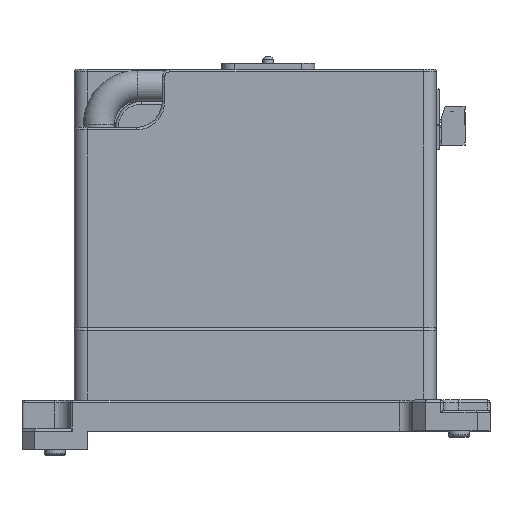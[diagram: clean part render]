
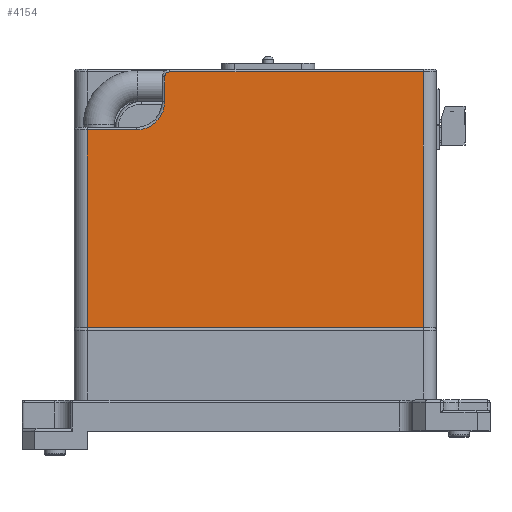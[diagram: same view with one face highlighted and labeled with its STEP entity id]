
A CAD part, top view. The second image highlights one B-rep face of the part: STEP entity #4154.
In plain terms, the highlighted planar face has unit normal (0, 0, 1) as drawn and (-1, 0, 0) by its records, which use the part's own axes.
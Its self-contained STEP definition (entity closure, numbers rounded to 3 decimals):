
#4154=ADVANCED_FACE('',(#7481),#5703,.F.);
#5703=PLANE('',#40918);
#7481=FACE_OUTER_BOUND('',#9670,.T.);
#9670=EDGE_LOOP('',(#19633,#19634,#19635,#19636,#19637,#19638,#19639,#19640));
#10632=CIRCLE('',#40916,11.);
#10633=CIRCLE('',#40917,2.);
#19633=ORIENTED_EDGE('',*,*,#29662,.T.);
#19634=ORIENTED_EDGE('',*,*,#29663,.T.);
#19635=ORIENTED_EDGE('',*,*,#29664,.T.);
#19636=ORIENTED_EDGE('',*,*,#29660,.T.);
#19637=ORIENTED_EDGE('',*,*,#29665,.T.);
#19638=ORIENTED_EDGE('',*,*,#29666,.T.);
#19639=ORIENTED_EDGE('',*,*,#29667,.T.);
#19640=ORIENTED_EDGE('',*,*,#29668,.T.);
#24659=VERTEX_POINT('',#68594);
#24660=VERTEX_POINT('',#68596);
#24661=VERTEX_POINT('',#68600);
#24662=VERTEX_POINT('',#68601);
#24663=VERTEX_POINT('',#68603);
#24664=VERTEX_POINT('',#68606);
#24665=VERTEX_POINT('',#68608);
#24666=VERTEX_POINT('',#68610);
#29660=EDGE_CURVE('',#24660,#24659,#34007,.T.);
#29662=EDGE_CURVE('',#24661,#24662,#10632,.T.);
#29663=EDGE_CURVE('',#24662,#24663,#34008,.T.);
#29664=EDGE_CURVE('',#24663,#24660,#34009,.T.);
#29665=EDGE_CURVE('',#24659,#24664,#34010,.T.);
#29666=EDGE_CURVE('',#24664,#24665,#34011,.T.);
#29667=EDGE_CURVE('',#24665,#24666,#10633,.T.);
#29668=EDGE_CURVE('',#24666,#24661,#34012,.T.);
#34007=LINE('',#68595,#38380);
#34008=LINE('',#68602,#38381);
#34009=LINE('',#68604,#38382);
#34010=LINE('',#68605,#38383);
#34011=LINE('',#68607,#38384);
#34012=LINE('',#68611,#38385);
#38380=VECTOR('',#49520,1.);
#38381=VECTOR('',#49527,1.);
#38382=VECTOR('',#49528,1.);
#38383=VECTOR('',#49529,1.);
#38384=VECTOR('',#49530,1.);
#38385=VECTOR('',#49533,1.);
#40916=AXIS2_PLACEMENT_3D('',#68599,#49525,#49526);
#40917=AXIS2_PLACEMENT_3D('',#68609,#49531,#49532);
#40918=AXIS2_PLACEMENT_3D('',#68612,#49534,#49535);
#49520=DIRECTION('',(0.,-1.,0.));
#49525=DIRECTION('',(1.,0.,0.));
#49526=DIRECTION('',(0.,0.,-1.));
#49527=DIRECTION('',(0.,1.,0.));
#49528=DIRECTION('',(0.,0.,-1.));
#49529=DIRECTION('',(0.,0.,1.));
#49530=DIRECTION('',(0.,1.,0.));
#49531=DIRECTION('',(-1.,0.,0.));
#49532=DIRECTION('',(0.,0.,-1.));
#49533=DIRECTION('',(0.,0.,-1.));
#49534=DIRECTION('',(1.,0.,0.));
#49535=DIRECTION('',(0.,0.,-1.));
#68594=CARTESIAN_POINT('',(-65.,-60.,0.));
#68595=CARTESIAN_POINT('',(-65.,75.,0.));
#68596=CARTESIAN_POINT('',(-65.,70.,0.));
#68599=CARTESIAN_POINT('',(-65.,51.,87.5));
#68600=CARTESIAN_POINT('',(-65.,40.,87.5));
#68601=CARTESIAN_POINT('',(-65.,51.,76.5));
#68602=CARTESIAN_POINT('',(-65.,70.,76.5));
#68603=CARTESIAN_POINT('',(-65.,70.,76.5));
#68604=CARTESIAN_POINT('',(-65.,70.,100.));
#68605=CARTESIAN_POINT('',(-65.,-60.,100.));
#68606=CARTESIAN_POINT('',(-65.,-60.,99.));
#68607=CARTESIAN_POINT('',(-65.,38.,99.));
#68608=CARTESIAN_POINT('',(-65.,38.,99.));
#68609=CARTESIAN_POINT('',(-65.,38.,97.));
#68610=CARTESIAN_POINT('',(-65.,40.,97.));
#68611=CARTESIAN_POINT('',(-65.,40.,100.));
#68612=CARTESIAN_POINT('',(-65.,75.,100.));
